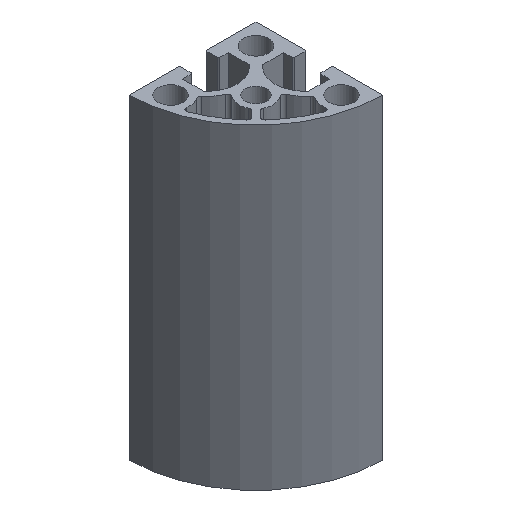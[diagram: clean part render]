
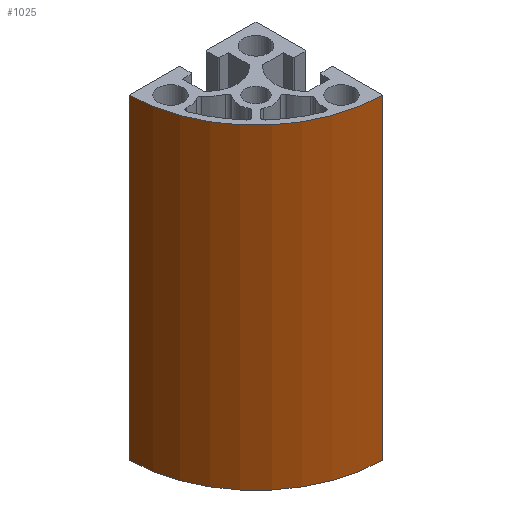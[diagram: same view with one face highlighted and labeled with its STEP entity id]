
A CAD part, isometric view. The second image highlights one B-rep face of the part: STEP entity #1025.
In plain terms, the highlighted cylindrical face has radius 40 mm (diameter 80 mm), a partial arc.
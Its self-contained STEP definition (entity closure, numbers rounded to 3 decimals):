
#73=FACE_OUTER_BOUND('',#132,.T.);
#132=EDGE_LOOP('',(#811,#812,#813,#814));
#210=LINE('',#1722,#297);
#212=LINE('',#1727,#299);
#297=VECTOR('',#1400,100.);
#299=VECTOR('',#1406,100.);
#384=CIRCLE('',#1142,40.);
#394=CIRCLE('',#1154,40.);
#456=VERTEX_POINT('',#1669);
#457=VERTEX_POINT('',#1671);
#481=VERTEX_POINT('',#1720);
#482=VERTEX_POINT('',#1725);
#582=EDGE_CURVE('',#457,#456,#384,.T.);
#607=EDGE_CURVE('',#456,#481,#210,.T.);
#609=EDGE_CURVE('',#481,#482,#394,.T.);
#610=EDGE_CURVE('',#457,#482,#212,.T.);
#811=ORIENTED_EDGE('',*,*,#609,.T.);
#812=ORIENTED_EDGE('',*,*,#610,.F.);
#813=ORIENTED_EDGE('',*,*,#582,.T.);
#814=ORIENTED_EDGE('',*,*,#607,.T.);
#988=CYLINDRICAL_SURFACE('',#1153,40.);
#1025=ADVANCED_FACE('',(#73),#988,.T.);
#1142=AXIS2_PLACEMENT_3D('',#1672,#1363,#1364);
#1153=AXIS2_PLACEMENT_3D('',#1724,#1402,#1403);
#1154=AXIS2_PLACEMENT_3D('',#1726,#1404,#1405);
#1363=DIRECTION('center_axis',(0.,0.,1.));
#1364=DIRECTION('ref_axis',(-1.,0.,0.));
#1400=DIRECTION('',(0.,0.,1.));
#1402=DIRECTION('center_axis',(0.,0.,1.));
#1403=DIRECTION('ref_axis',(-1.,0.,0.));
#1404=DIRECTION('center_axis',(0.,0.,-1.));
#1405=DIRECTION('ref_axis',(-1.,0.,0.));
#1406=DIRECTION('',(0.,0.,1.));
#1669=CARTESIAN_POINT('',(20.,-20.,-50.));
#1671=CARTESIAN_POINT('',(-20.,20.,-50.));
#1672=CARTESIAN_POINT('Origin',(20.,20.,-50.));
#1720=CARTESIAN_POINT('',(20.,-20.,50.));
#1722=CARTESIAN_POINT('',(20.,-20.,-50.));
#1724=CARTESIAN_POINT('Origin',(20.,20.,0.));
#1725=CARTESIAN_POINT('',(-20.,20.,50.));
#1726=CARTESIAN_POINT('Origin',(20.,20.,50.));
#1727=CARTESIAN_POINT('',(-20.,20.,-50.));
